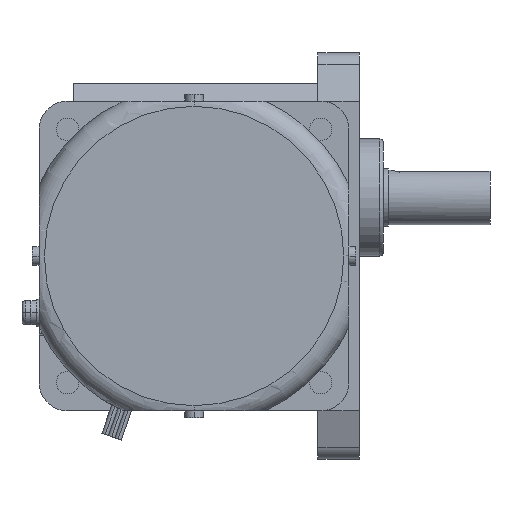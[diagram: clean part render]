
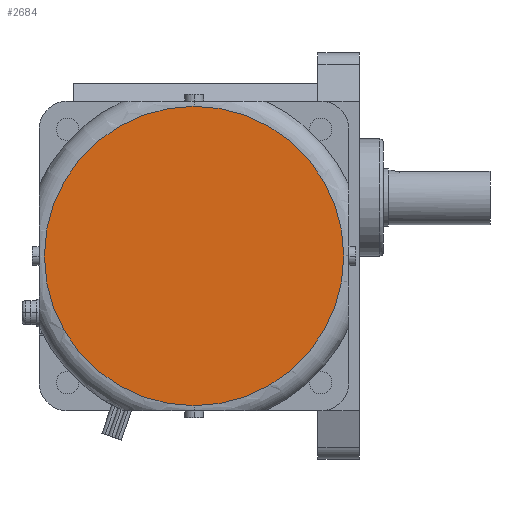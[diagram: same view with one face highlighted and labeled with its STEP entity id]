
A CAD part, left-side view. The second image highlights one B-rep face of the part: STEP entity #2684.
In plain terms, the highlighted planar face has unit normal (-1, 0, 0).
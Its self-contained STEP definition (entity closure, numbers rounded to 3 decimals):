
#2664=CARTESIAN_POINT('POINT744665',(-211.5,48.,26.5));
#2665=VERTEX_POINT('VERTEX744665',#2664);
#2666=CARTESIAN_POINT('POINT744666',(-211.5,48.,-60.5));
#2667=VERTEX_POINT('VERTEX744666',#2666);
#2668=CARTESIAN_POINT('POS1239816',(-211.5,48.,-17.));
#2669=DIRECTION('DIR1866021',(-1.,0.,0.));
#2670=DIRECTION('DIR1866022',(0.,0.,-1.));
#2671=AXIS2_PLACEMENT_3D('AXIS626206',#2668,#2669,#2670);
#2672=CIRCLE('ELLIPSE292352',#2671,43.5);
#2673=EDGE_CURVE('EDGE1137493',#2665,#2667,#2672,.T.);
#2674=ORIENTED_EDGE('COEDGE2274969',*,*,#2673,.T.);
#2675=EDGE_CURVE('EDGE1137494',#2667,#2665,#2672,.T.);
#2676=ORIENTED_EDGE('COEDGE2274970',*,*,#2675,.T.);
#2677=EDGE_LOOP('NONE',(#2674,#2676));
#2678=FACE_BOUND('LOOP1',#2677,.T.);
#2679=CARTESIAN_POINT('POS1239817',(-211.5,48.,
   5.25));
#2680=DIRECTION('DIR1866023',(-1.,0.,0.));
#2681=DIRECTION('DIR1866024',(0.,1.,0.));
#2682=AXIS2_PLACEMENT_3D('AXIS626207',#2679,#2680,#2681);
#2683=PLANE('PLANE201850',#2682);
#2684=ADVANCED_FACE('FACE465204',(#2678),#2683,.T.);
